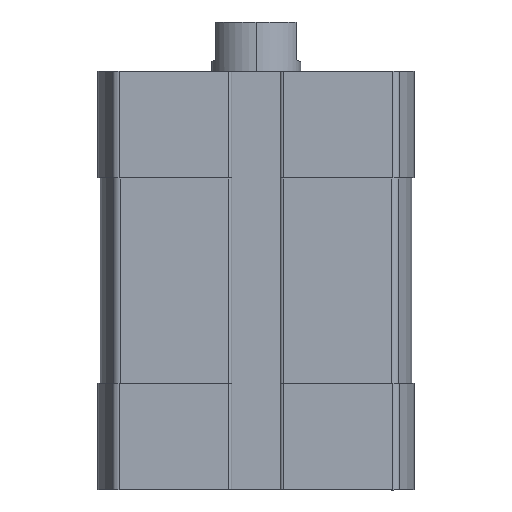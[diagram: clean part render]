
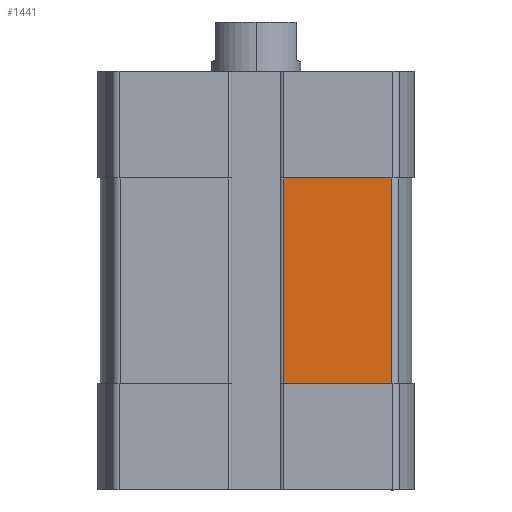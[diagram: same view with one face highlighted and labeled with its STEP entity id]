
A CAD part, left-side view. The second image highlights one B-rep face of the part: STEP entity #1441.
In plain terms, the highlighted planar face has unit normal (-1, 0, 0).
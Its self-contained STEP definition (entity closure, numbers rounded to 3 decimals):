
#443 = CARTESIAN_POINT ( 'NONE',  ( -17.5, 0., -12. ) ) ;
#552 = LINE ( 'NONE', #12418, #5970 ) ;
#1441 = ADVANCED_FACE ( 'NONE', ( #11808 ), #11280, .T. ) ;
#2182 = CARTESIAN_POINT ( 'NONE',  ( -17.5, -3.1, -35. ) ) ;
#2617 = CARTESIAN_POINT ( 'NONE',  ( -17.5, -15.253, -35. ) ) ;
#2784 = LINE ( 'NONE', #12509, #5174 ) ;
#3051 = CARTESIAN_POINT ( 'NONE',  ( -17.5, -3.1, -35. ) ) ;
#3133 = EDGE_LOOP ( 'NONE', ( #4687, #11562, #7452, #8711 ) ) ;
#4210 = CARTESIAN_POINT ( 'NONE',  ( -17.5, -3.1, -12. ) ) ;
#4553 = LINE ( 'NONE', #443, #12623 ) ;
#4644 = EDGE_CURVE ( 'NONE', #7266, #7344, #552, .T. ) ;
#4687 = ORIENTED_EDGE ( 'NONE', *, *, #7630, .T. ) ;
#4887 = VERTEX_POINT ( 'NONE', #6709 ) ;
#5174 = VECTOR ( 'NONE', #10487, 1000. ) ;
#5249 = DIRECTION ( 'NONE',  ( -1., 0., 0. ) ) ;
#5373 = DIRECTION ( 'NONE',  ( 0., 0., 1. ) ) ;
#5483 = VECTOR ( 'NONE', #8714, 1000. ) ;
#5742 = CARTESIAN_POINT ( 'NONE',  ( -17.5, -15.253, -35. ) ) ;
#5794 = LINE ( 'NONE', #2617, #5483 ) ;
#5970 = VECTOR ( 'NONE', #5373, 1000. ) ;
#6080 = EDGE_CURVE ( 'NONE', #4887, #7344, #4553, .T. ) ;
#6709 = CARTESIAN_POINT ( 'NONE',  ( -17.5, -15.253, -12. ) ) ;
#7007 = EDGE_CURVE ( 'NONE', #10839, #4887, #5794, .T. ) ;
#7266 = VERTEX_POINT ( 'NONE', #3051 ) ;
#7344 = VERTEX_POINT ( 'NONE', #4210 ) ;
#7452 = ORIENTED_EDGE ( 'NONE', *, *, #6080, .T. ) ;
#7630 = EDGE_CURVE ( 'NONE', #7266, #10839, #2784, .T. ) ;
#8521 = DIRECTION ( 'NONE',  ( 0., 1., 0. ) ) ;
#8711 = ORIENTED_EDGE ( 'NONE', *, *, #4644, .F. ) ;
#8714 = DIRECTION ( 'NONE',  ( 0., 0., 1. ) ) ;
#10487 = DIRECTION ( 'NONE',  ( 0., -1., 0. ) ) ;
#10839 = VERTEX_POINT ( 'NONE', #5742 ) ;
#11280 = PLANE ( 'NONE',  #11922 ) ;
#11562 = ORIENTED_EDGE ( 'NONE', *, *, #7007, .T. ) ;
#11808 = FACE_OUTER_BOUND ( 'NONE', #3133, .T. ) ;
#11922 = AXIS2_PLACEMENT_3D ( 'NONE', #2182, #5249, #12312 ) ;
#12312 = DIRECTION ( 'NONE',  ( 0., 0., 1. ) ) ;
#12418 = CARTESIAN_POINT ( 'NONE',  ( -17.5, -3.1, -35. ) ) ;
#12509 = CARTESIAN_POINT ( 'NONE',  ( -17.5, -3.1, -35. ) ) ;
#12623 = VECTOR ( 'NONE', #8521, 1000. ) ;
